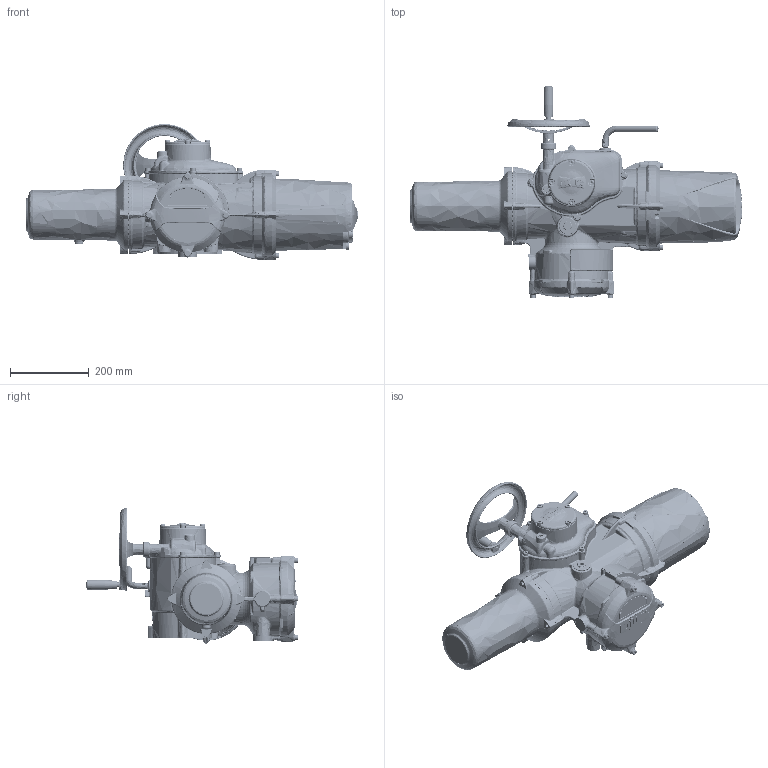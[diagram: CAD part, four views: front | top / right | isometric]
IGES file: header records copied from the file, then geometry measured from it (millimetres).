
Start section: C
Global section: file name: IQ3H-2SP-SHW-NOBASE-1.igs; native system: By Siemens PLM Incorporated; preprocessor: XPlus GENERIC/IGES 23.0.57; author: Author; organization: Title; date: 20210329.103813; units: millimetre
Bounding box: 843.5 x 537.85 x 345.05 mm (x, y, z)
Surface area: 1141051 mm2 (no closed solid volume)
Topology: 0 solids, 0 shells, 6062 faces, 33259 edges, 32966 vertices
Faces by surface type: bspline 6062
